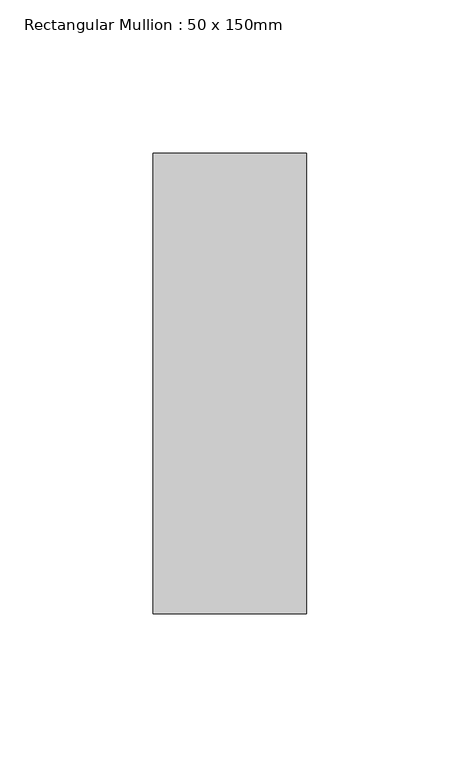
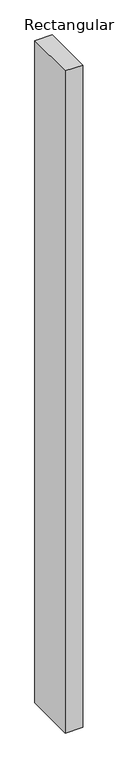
"""IFC4 building model written with IfcOpenShell, lengths in millimetres: member geometry, Rectangular Mullion : 50 x 150mm."""

from ifc_helpers import new_model, si_unit, frame, origin, place, context, project, spatial, polyline, outline, extrude, source, transform, mapped, element, save


def rectangular_mullion_50_x_150mm_b8ab5643(model_context):
    return source(origin(), model_context, "Body", "SweptSolid", [
        extrude(outline(polyline([(25.0, 75.0), (25.0, -75.0), (-25.0, -75.0), (-25.0, 75.0), (25.0, 75.0)])), frame((0.0, 0.0, -1997.2919866), z_axis=(0.0, 0.0, 1.0), x_axis=(1.0, 0.0, 0.0)), (0.0, 0.0, 1.0), 1997.2919866),
    ])


if __name__ == "__main__":
    model = new_model("IFC4")
    model_context = context("Model", 3, world=origin())
    ifc_project = project(units=[si_unit("LENGTHUNIT", "METRE", prefix="MILLI")], contexts=[model_context])
    site = spatial("IfcSite", under=ifc_project)
    building = spatial("IfcBuilding", under=site)
    placement = place(None, origin())
    rectangular_mullion_50_x_150mm_shape = rectangular_mullion_50_x_150mm_b8ab5643(model_context)
    element("IfcMember", 1, ObjectType="Rectangular Mullion : 50 x 150mm", at=placement, inside=building, context=model_context, shape_type="MappedRepresentation", body=[
        mapped(rectangular_mullion_50_x_150mm_shape, transform((0.0, 0.0, 0.0), x_axis=(1.0, 0.0, 0.0), y_axis=(0.0, 1.0, 0.0), z_axis=(0.0, 0.0, 1.0))),
    ])
    save(model, "model.ifc")
